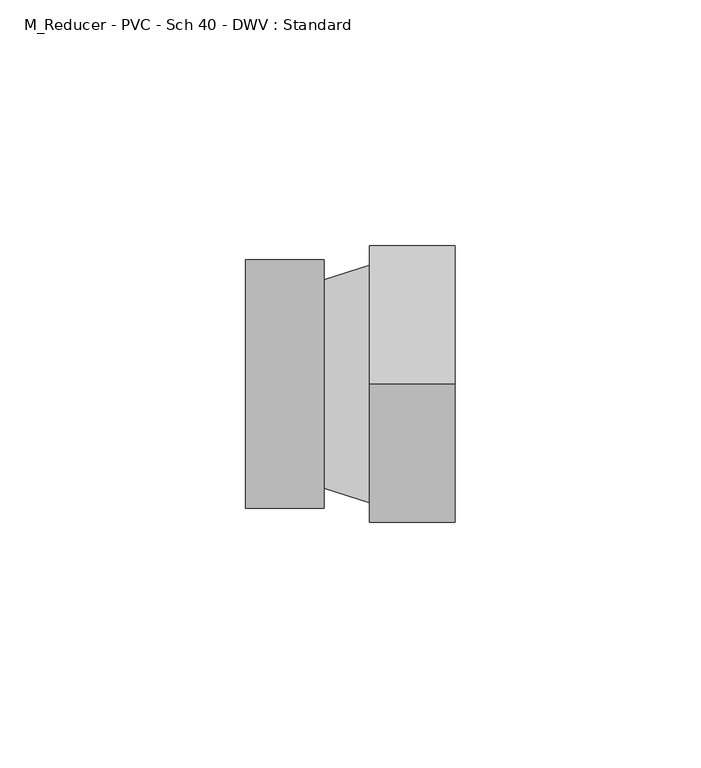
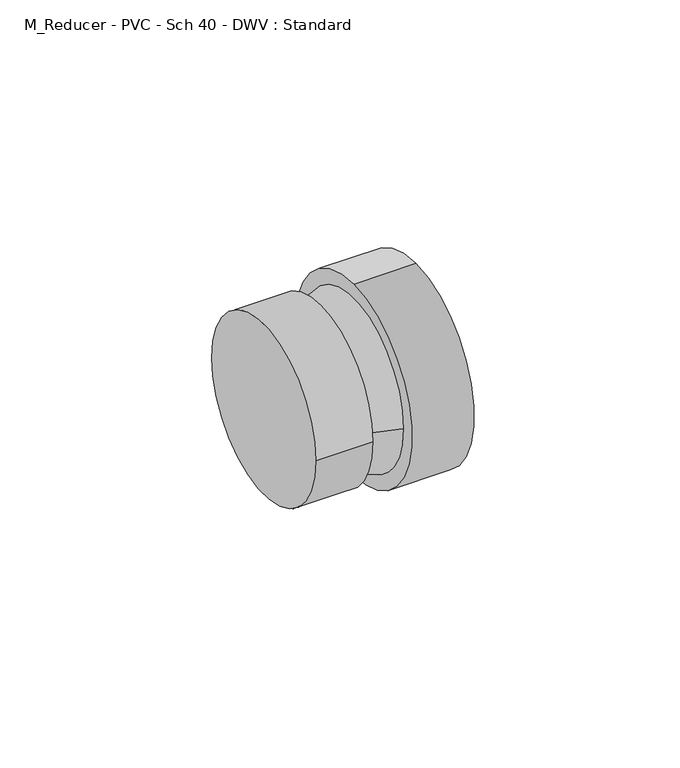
"""IFC4 building model written with IfcOpenShell, lengths in millimetres: pipe fitting geometry, M_Reducer - PVC - Sch 40 - DWV : Standard."""

from ifc_helpers import new_model, si_unit, frame, origin, place, context, project, spatial, polyline, circle_curve, source, transform, mapped, element, save
from ifc_brep_helpers import plane_surface, cylinder_surface, revolved_surface, advanced_brep


def m_reducer_pvc_sch_40_dwv_standard_5312b7c1(model_context):
    return source(origin(), model_context, "Body", "AdvancedBrep", [
        advanced_brep(
        [(0.0, -25.2671094, 0.0), (0.0, 25.2671094, 0.0), (16.0, -25.2671094, 0.0), (16.0, 25.2671094, 0.0), (16.0, 21.2040625, 0.0), (16.0, -21.2040625, 0.0), (25.2062938, 24.13, 0.0), (25.2062937, -24.13, 0.0), (25.2062938, 0.0, 28.2829), (25.2062938, 0.0, -28.2829), (42.6560938, 0.0, 28.2829), (42.6560938, 0.0, -28.2829)],
        [
            (0, 1, circle_curve(frame((0.0, 0.0, 0.0), z_axis=(-1.0, 0.0, 0.0), x_axis=(0.0, 1.0, 0.0)), 25.2671094)),
            (1, 0, circle_curve(frame((0.0, 0.0, 0.0), z_axis=(-1.0, 0.0, 0.0), x_axis=(0.0, 1.0, 0.0)), 25.2671094)),
            (2, 3, circle_curve(frame((16.0, 0.0, 0.0), z_axis=(1.0, 0.0, 0.0), x_axis=(0.0, 1.0, 0.0)), 25.2671094)),
            (3, 2, circle_curve(frame((16.0, 0.0, 0.0), z_axis=(1.0, 0.0, 0.0), x_axis=(0.0, 1.0, 0.0)), 25.2671094)),
            (4, 5, circle_curve(frame((16.0, 0.0, 0.0), z_axis=(-1.0, 0.0, 0.0), x_axis=(0.0, -1.0, 0.0)), 21.2040625)),
            (5, 4, circle_curve(frame((16.0, 0.0, 0.0), z_axis=(-1.0, 0.0, 0.0), x_axis=(0.0, 1.0, 0.0)), 21.2040625)),
            (0, 2),
            (3, 1),
            (4, 6),
            (6, 7, circle_curve(frame((25.2062938, 0.0, 0.0), z_axis=(-1.0, 0.0, 0.0), x_axis=(0.0, -1.0, 0.0)), 24.13)),
            (7, 5),
            (7, 6, circle_curve(frame((25.2062938, 0.0, 0.0), z_axis=(-1.0, 0.0, 0.0), x_axis=(0.0, 1.0, 0.0)), 24.13)),
            (8, 9, circle_curve(frame((25.2062938, 0.0, 0.0), z_axis=(-1.0, 0.0, 0.0), x_axis=(0.0, 0.0, -1.0)), 28.2829)),
            (9, 8, circle_curve(frame((25.2062938, 0.0, 0.0), z_axis=(-1.0, 0.0, 0.0), x_axis=(0.0, 0.0, -1.0)), 28.2829)),
            (10, 11, circle_curve(frame((42.6560938, 0.0, 0.0), z_axis=(1.0, 0.0, 0.0), x_axis=(0.0, 0.0, -1.0)), 28.2829)),
            (11, 10, circle_curve(frame((42.6560938, 0.0, 0.0), z_axis=(1.0, 0.0, 0.0), x_axis=(0.0, 0.0, -1.0)), 28.2829)),
            (8, 10),
            (11, 9),
        ],
        [
            plane_surface(frame((0.0, 0.0, 0.0), z_axis=(-1.0, 0.0, 0.0), x_axis=(0.0, 0.0, 1.0))),
            plane_surface(frame((16.0, 0.0, 0.0), z_axis=(1.0, 0.0, 0.0), x_axis=(0.0, 0.0, 1.0))),
            cylinder_surface(frame((0.0, 0.0, 0.0), z_axis=(-1.0, 0.0, 0.0), x_axis=(0.0, 1.0, 0.0)), 25.2671094),
            revolved_surface(polyline([(16.0, 21.204062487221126, 0.0), (25.206293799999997, 24.13, 0.0)]), (-50.7173609, 0.0, 0.0), (1.0, 0.0, 0.0)),
            plane_surface(frame((25.2062938, 0.0, 0.0), z_axis=(-1.0, 0.0, 0.0), x_axis=(0.0, 1.0, 0.0))),
            plane_surface(frame((42.6560938, 0.0, 0.0), z_axis=(1.0, 0.0, 0.0), x_axis=(0.0, 1.0, 0.0))),
            cylinder_surface(frame((25.2062938, 0.0, 0.0), z_axis=(-1.0, 0.0, 0.0), x_axis=(0.0, 0.0, -1.0)), 28.2829),
        ],
        [
            (0, [[1, 2]]),
            (1, [[3, 4], [5, 6]]),
            (2, [[-1, 7, -4, 8]]),
            (2, [[-2, -8, -3, -7]]),
            (3, [[9, 10, 11, -5]]),
            (3, [[-9, -6, -11, 12]]),
            (4, [[13, 14], [-10, -12]]),
            (5, [[15, 16]]),
            (6, [[-13, 17, -16, 18]]),
            (6, [[-14, -18, -15, -17]]),
        ],
    ),
    ])


if __name__ == "__main__":
    model = new_model("IFC4")
    model_context = context("Model", 3, world=origin())
    ifc_project = project(units=[si_unit("LENGTHUNIT", "METRE", prefix="MILLI")], contexts=[model_context])
    site = spatial("IfcSite", under=ifc_project)
    building = spatial("IfcBuilding", under=site)
    placement = place(None, origin())
    m_reducer_pvc_sch_40_dwv_standard_shape = m_reducer_pvc_sch_40_dwv_standard_5312b7c1(model_context)
    element("IfcPipeFitting", 1, ObjectType="M_Reducer - PVC - Sch 40 - DWV : Standard", at=placement, inside=building, context=model_context, shape_type="MappedRepresentation", body=[
        mapped(m_reducer_pvc_sch_40_dwv_standard_shape, transform((0.0, 0.0, 0.0), x_axis=(1.0, 0.0, 0.0), y_axis=(0.0, 1.0, 0.0), z_axis=(0.0, 0.0, 1.0))),
    ])
    save(model, "model.ifc")
